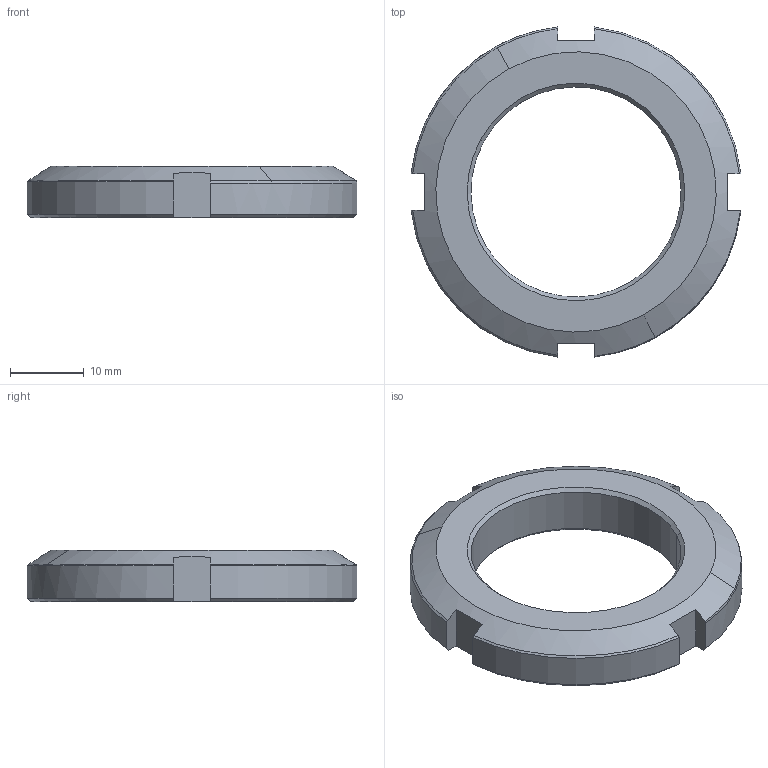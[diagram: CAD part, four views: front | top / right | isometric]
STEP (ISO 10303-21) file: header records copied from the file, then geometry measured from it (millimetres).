
FILE_DESCRIPTION(('CATIA V5 STEP Exchange'),'2;1');
FILE_NAME('\\Kjf-102\kjf_tc\Hydraulic_Clamp\Standard\Mounting Base Accessories\MBR\MBR-3007_-\MBR-3007_-_.stp','2026-08-10T04:31:55+00:00',('none'),('none'),'CATIA Version 5 Release 19 SP 6 (IN-10)','CATIA V5 STEP AP203','none');
FILE_SCHEMA(('CONFIG_CONTROL_DESIGN'));
Length unit declared in the file: millimetre
Products named in the file (1): MBR-3010_-
Bounding box: 44.72 x 44.72 x 7 mm (x, y, z)
Volume: 5937.6 mm3; surface area: 3232.9 mm2
Topology: 1 solids, 1 shells, 36 faces, 96 edges, 62 vertices
Faces by surface type: cone 16, plane 14, cylinder 6
Entity records: 1181 total; most frequent: CARTESIAN_POINT 314, ORIENTED_EDGE 192, DIRECTION 130, EDGE_CURVE 96, AXIS2_PLACEMENT_3D 62, VERTEX_POINT 62, VECTOR 38, EDGE_LOOP 38
